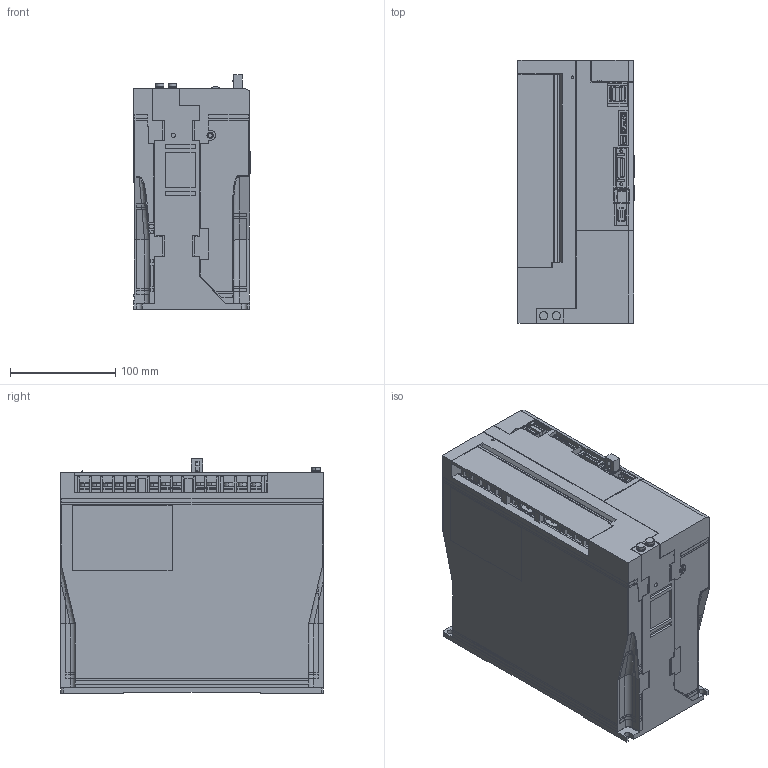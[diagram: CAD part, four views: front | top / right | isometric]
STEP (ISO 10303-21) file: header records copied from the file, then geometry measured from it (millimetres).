
FILE_DESCRIPTION (( 'STEP AP203' ), '1' );
FILE_NAME ('sgdv_330a1_a.STEP', '2008-07-07T04:51:07', ( 'T' ), ( 'T' ), 'SwSTEP 2.0', 'SolidWorks 2006052', '' );
FILE_SCHEMA (( 'CONFIG_CONTROL_DESIGN' ));
Length unit declared in the file: millimetre
Products named in the file (7): sgdv_330a1_a_base; sgdv_330a1_a_cover; sgdv_330a1_a; sgdv_330a1_a_cover2; sgdv_330a1_a_connector; sgdv_330a1_a_cover3; sgdv_330a1_a_terminal
Assembly tree (8 placements, depth 2):
  sgdv_330a1_a
    sgdv_330a1_a_cover3
    sgdv_330a1_a_cover
    sgdv_330a1_a_terminal  x2
    sgdv_330a1_a_cover2  x2
    sgdv_330a1_a_connector
    sgdv_330a1_a_base
Bounding box: 110.5 x 250 x 223 mm (x, y, z)
Volume: 5556354.8 mm3; surface area: 273289 mm2
Topology: 8 solids, 8 shells, 2246 faces, 6021 edges, 3961 vertices
Faces by surface type: plane 1966, cylinder 265, bspline 9, cone 4, sphere 1, torus 1
Entity records: 69509 total; most frequent: CARTESIAN_POINT 13306, ORIENTED_EDGE 11802, DIRECTION 10769, EDGE_CURVE 5901, VECTOR 5317, LINE 5317, VERTEX_POINT 3881, AXIS2_PLACEMENT_3D 2726
